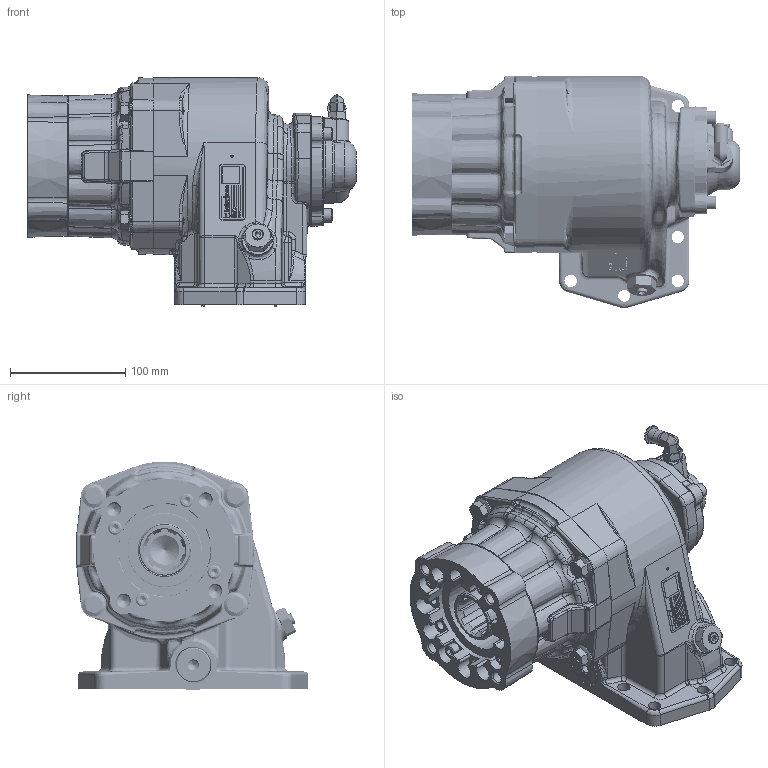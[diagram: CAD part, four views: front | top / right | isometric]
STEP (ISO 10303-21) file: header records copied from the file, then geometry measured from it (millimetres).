
FILE_DESCRIPTION(/* description */ ('PTO ASSEMBLY-878'),/* implementation_level */ '2;1');
FILE_NAME(/* name */ 'C:\Users\mba7719\Desktop\878X-M5RY.stp',/* time_stamp */ '2024-01-16T14:49:24-06:00',/* author */ ('mba7719'),/* organization */ (''),/* preprocessor_version */ 'ST-DEVELOPER v18',/* originating_system */ 'Autodesk Inventor 2020',/* authorisation */ '');
FILE_SCHEMA (('AUTOMOTIVE_DESIGN { 1 0 10303 214 3 1 1 }'));
Products named in the file (23): 878-01; 1-P-816; 14-P-82; 28-P-329; 9-P-99; 28-P-42; 378452-7; 378447-6; 379486; 379231; 379242; 378263; 21-P-933; 28-P-267; 35-P-101; 21-P-771; 3-P-1071; 21-P-690; 379564-2; 22-P-112; 380563-14; 68-P-51-1; 378447-8
Assembly tree (32 placements, depth 2):
  878-01
    1-P-816
    14-P-82  x2
    22-P-112  x2
    28-P-329
    9-P-99
    28-P-42
    378452-7
    378447-6  x3
    379486
    379231
    379242
    378263
    380563-14  x4
    21-P-933
    28-P-267
    35-P-101
    21-P-771
    3-P-1071
    21-P-690
    379564-2
    68-P-51-1
    378447-8  x4
Bounding box: 285.42 x 201.72 x 198.97 mm (x, y, z)
Volume: 2198350.3 mm3; surface area: 541928.9 mm2
Topology: 33 solids, 33 shells, 6711 faces, 16986 edges, 10454 vertices
Faces by surface type: plane 2361, bspline 1826, cylinder 1733, torus 439, cone 329, sphere 23
Full cylindrical faces by diameter (mm): 0.711 x1, 0.813 x1, 2.184 x2, 2.362 x1, 3.175 x16, 3.962 x1, 4.191 x1, 4.318 x1, 4.699 x2, 4.978 x1, 6.35 x3, 6.401 x15, 6.528 x1, 7.137 x1, 7.798 x5, 7.836 x13, 7.95 x1, 8.331 x12, 8.611 x1, 8.712 x6, 8.75 x3, 9.144 x2, 9.525 x12, 9.728 x1, 10.109 x4, 10.312 x6, 10.338 x4, 10.719 x8, 10.871 x1, 11.112 x2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
Entity records: 248562 total; most frequent: CARTESIAN_POINT 100154, ORIENTED_EDGE 32018, DIRECTION 25729, EDGE_CURVE 16009, VERTEX_POINT 9939, AXIS2_PLACEMENT_3D 9006, LINE 7717, VECTOR 7717
